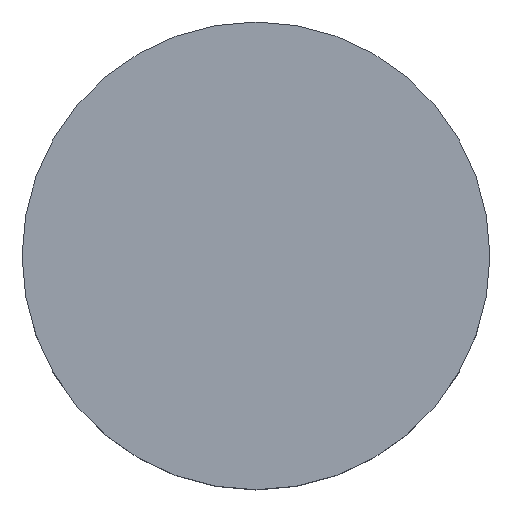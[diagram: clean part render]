
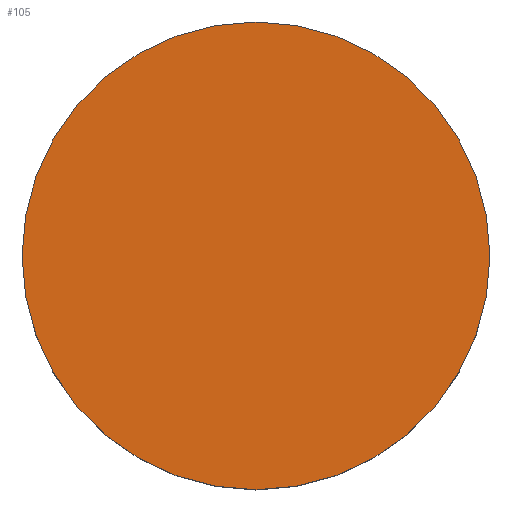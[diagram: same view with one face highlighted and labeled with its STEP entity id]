
A CAD part, top view. The second image highlights one B-rep face of the part: STEP entity #105.
In plain terms, the highlighted planar face has unit normal (0, 0, 1).
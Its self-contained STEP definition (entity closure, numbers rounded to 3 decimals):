
#21 = EDGE_CURVE('',#22,#22,#24,.T.);
#22 = VERTEX_POINT('',#23);
#23 = CARTESIAN_POINT('',(27.05,31.5,6.05));
#24 = SURFACE_CURVE('',#25,(#30,#42),.PCURVE_S1.);
#25 = CIRCLE('',#26,1.55);
#26 = AXIS2_PLACEMENT_3D('',#27,#28,#29);
#27 = CARTESIAN_POINT('',(25.5,31.5,6.05));
#28 = DIRECTION('',(0.,0.,1.));
#29 = DIRECTION('',(1.,0.,-0.));
#30 = PCURVE('',#31,#36);
#31 = CYLINDRICAL_SURFACE('',#32,1.55);
#32 = AXIS2_PLACEMENT_3D('',#33,#34,#35);
#33 = CARTESIAN_POINT('',(25.5,31.5,5.2));
#34 = DIRECTION('',(0.,0.,1.));
#35 = DIRECTION('',(1.,0.,-0.));
#36 = DEFINITIONAL_REPRESENTATION('',(#37),#41);
#37 = LINE('',#38,#39);
#38 = CARTESIAN_POINT('',(0.,0.85));
#39 = VECTOR('',#40,1.);
#40 = DIRECTION('',(1.,0.));
#41 = ( GEOMETRIC_REPRESENTATION_CONTEXT(2) 
PARAMETRIC_REPRESENTATION_CONTEXT() REPRESENTATION_CONTEXT('2D SPACE',''
  ) );
#42 = PCURVE('',#43,#48);
#43 = PLANE('',#44);
#44 = AXIS2_PLACEMENT_3D('',#45,#46,#47);
#45 = CARTESIAN_POINT('',(25.5,31.5,6.05));
#46 = DIRECTION('',(0.,0.,1.));
#47 = DIRECTION('',(1.,0.,-0.));
#48 = DEFINITIONAL_REPRESENTATION('',(#49),#53);
#49 = CIRCLE('',#50,1.55);
#50 = AXIS2_PLACEMENT_2D('',#51,#52);
#51 = CARTESIAN_POINT('',(0.,0.));
#52 = DIRECTION('',(1.,0.));
#53 = ( GEOMETRIC_REPRESENTATION_CONTEXT(2) 
PARAMETRIC_REPRESENTATION_CONTEXT() REPRESENTATION_CONTEXT('2D SPACE',''
  ) );
#105 = ADVANCED_FACE('',(#106),#43,.T.);
#106 = FACE_BOUND('',#107,.T.);
#107 = EDGE_LOOP('',(#108));
#108 = ORIENTED_EDGE('',*,*,#21,.T.);
